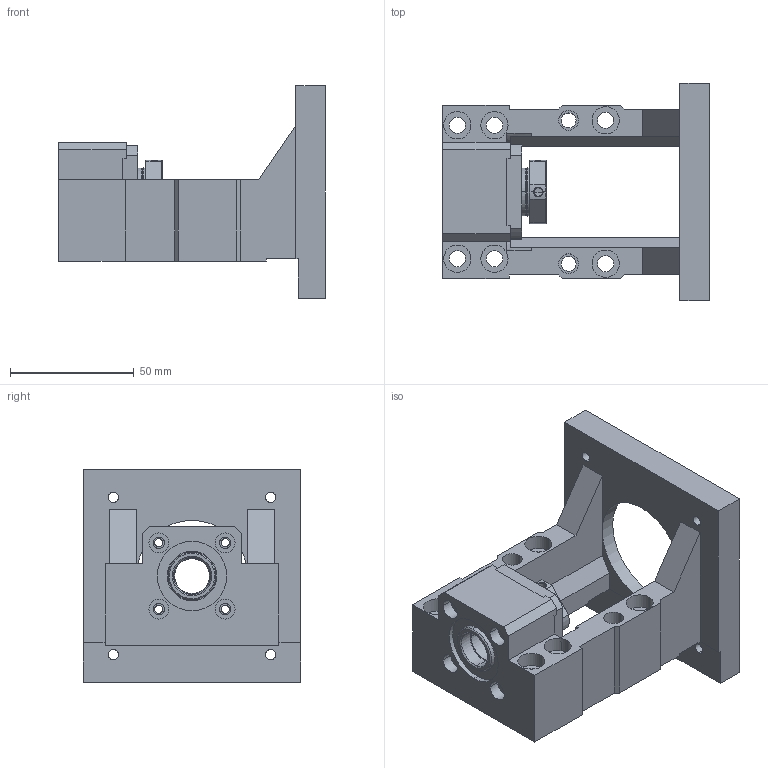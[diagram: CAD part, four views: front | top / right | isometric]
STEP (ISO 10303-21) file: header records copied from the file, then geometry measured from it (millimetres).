
FILE_DESCRIPTION((''),'2;1');
FILE_NAME('MBCB15-EP_ASM','2021-01-13T',('Administrator'),(''),'PRO/ENGINEER BY PARAMETRIC TECHNOLOGY CORPORATION, 2010280','PRO/ENGINEER BY PARAMETRIC TECHNOLOGY CORPORATION, 2010280','');
FILE_SCHEMA(('CONFIG_CONTROL_DESIGN'));
Length unit declared in the file: millimetre
Products named in the file (8): MANIFOLD_SOLID_BREP_633; MBCB15-EP_1_ASM; MBCB15-EP_2; 1; MBCB15-EP_4_ASM; MBCB15-EP_3; MANIFOLD_SOLID_BREP_632; MBCB15-EP_ASM
Assembly tree (7 placements, depth 3):
  MBCB15-EP_ASM
    MBCB15-EP_1_ASM
      MANIFOLD_SOLID_BREP_633
    MBCB15-EP_2
    MBCB15-EP_4_ASM
      1
    MBCB15-EP_3
    MANIFOLD_SOLID_BREP_632
Bounding box: 108 x 88 x 86 mm (x, y, z)
Volume: 183852.3 mm3; surface area: 58783.9 mm2
Topology: 5 solids, 5 shells, 237 faces, 610 edges, 397 vertices
Faces by surface type: cylinder 110, plane 91, cone 32, bspline 4
Entity records: 7958 total; most frequent: CARTESIAN_POINT 1701, DIRECTION 1342, ORIENTED_EDGE 1220, EDGE_CURVE 610, AXIS2_PLACEMENT_3D 514, VERTEX_POINT 397, VECTOR 314, LINE 314
